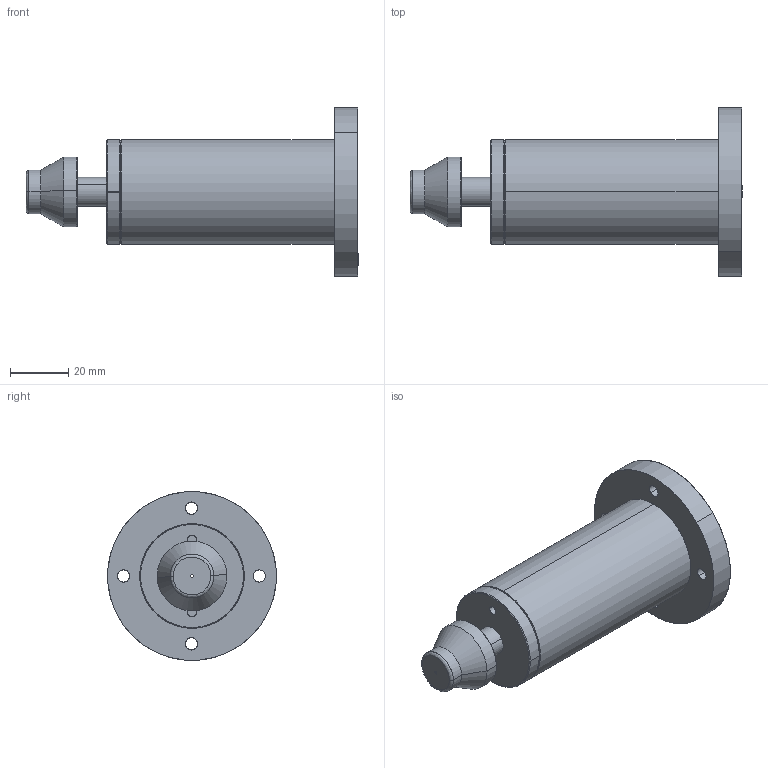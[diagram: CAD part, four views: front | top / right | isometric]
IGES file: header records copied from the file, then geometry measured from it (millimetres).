
Start section: SolidWorks IGES file using analytic representation for surfaces
Global section: file name: D:\IGS跡宒\AC\AC3610.IGS,1; native system: 5HSolidWorks 2013; preprocessor: SolidWorks 2013; author: Administrator; date: 160919.081234; units: inch
Bounding box: 114.1 x 58 x 58 mm (x, y, z)
Surface area: 19724 mm2 (no closed solid volume)
Topology: 0 solids, 0 shells, 57 faces, 1456 edges, 1456 vertices
Faces by surface type: revolution 46, bspline 11
